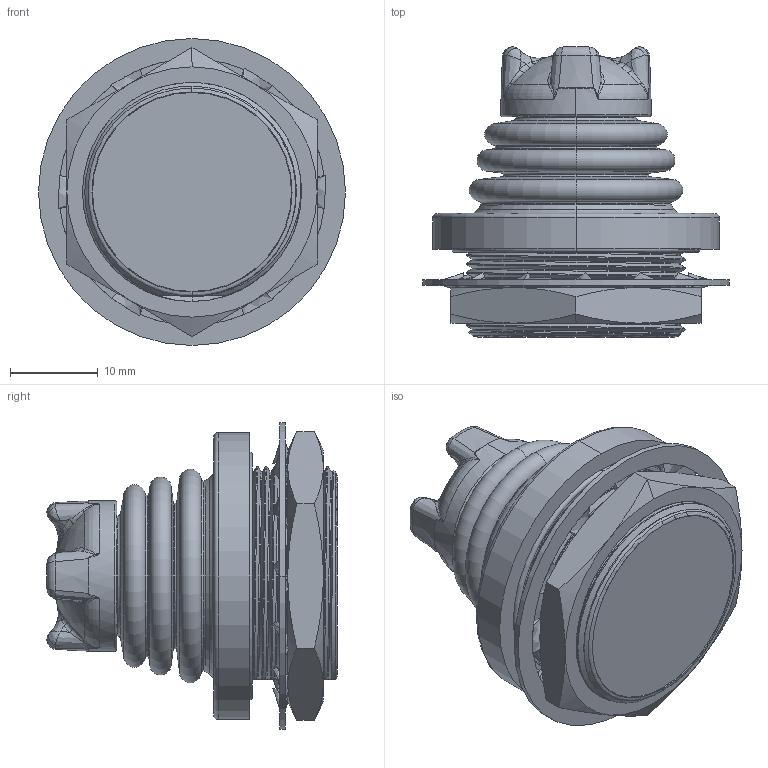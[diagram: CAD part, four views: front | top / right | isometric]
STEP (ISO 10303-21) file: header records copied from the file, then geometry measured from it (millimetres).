
FILE_DESCRIPTION (( 'STEP AP203' ), '1' );
FILE_NAME ('TS1TS00A.STEP', '2015-04-16T21:18:23', ( '' ), ( '' ), 'SwSTEP 2.0', 'SolidWorks 2015', '' );
FILE_SCHEMA (( 'CONFIG_CONTROL_DESIGN' ));
Length unit declared in the file: inch
Products named in the file (20): 910-052_HousingTSMetal_Rev_C_thread housing; A0044 - Centering Bell, Thumbstick_rev B; 500-045; 900-919_BootTSSiliconeMetalHsg_Rev_A_for thread housing; A0045_Spring Retainer, Thumbstick_revA; A0040_Gimbal, 1 Axis, Thumbstick_revA; 4-40x0.1875 SS FH (McMaster 91771A111)_91771A111; 900-265 - PIN, DWL, 0.0625x0.250in SS; A5054_SkidPlateTS-FNRXaxis_Rev_1_Detent Skid Plate; A0047 - Cap, Plug #1, Thumbstick; 900-271 - PIN, DWL, 0.0625x0.3125in SS; TS1TS00A; 900-929 Washer, Internal Tooth, SS, rev1_91113A038; castle cap-Cap; 900-918, Nut, M25x1.0, rev A; A1088- Gimbal Strap, Metal Hsg, Voltage-Out, revA; 900-917_ShaftTSSwageButton_Rev_B_default; A0043_Skid Plate, Thumbstick_revC; Part1^TS1TS00A; 900-349 - SPRING, 0.343inODx0.380inFL, SS - revA
Assembly tree (20 placements, depth 2):
  TS1TS00A
    A0043_Skid Plate, Thumbstick_revC
    900-349 - SPRING, 0.343inODx0.380inFL, SS - revA
    A0044 - Centering Bell, Thumbstick_rev B
    A0045_Spring Retainer, Thumbstick_revA
    900-265 - PIN, DWL, 0.0625x0.250in SS  x2
    900-271 - PIN, DWL, 0.0625x0.3125in SS
    castle cap-Cap
    A1088- Gimbal Strap, Metal Hsg, Voltage-Out, revA
    900-917_ShaftTSSwageButton_Rev_B_default
    Part1^TS1TS00A
    910-052_HousingTSMetal_Rev_C_thread housing
    900-919_BootTSSiliconeMetalHsg_Rev_A_for thread housing
    4-40x0.1875 SS FH (McMaster 91771A111)_91771A111
    A0047 - Cap, Plug #1, Thumbstick
    900-929 Washer, Internal Tooth, SS, rev1_91113A038
    900-918, Nut, M25x1.0, rev A
    500-045
    A0040_Gimbal, 1 Axis, Thumbstick_revA
    A5054_SkidPlateTS-FNRXaxis_Rev_1_Detent Skid Plate
Bounding box: 35.05 x 33.12 x 35.05 mm (x, y, z)
Volume: 10636.9 mm3; surface area: 18956.2 mm2
Topology: 20 solids, 20 shells, 1125 faces, 2903 edges, 1825 vertices
Faces by surface type: cylinder 343, plane 281, bspline 188, cone 188, torus 113, sphere 12
Entity records: 60898 total; most frequent: CARTESIAN_POINT 33135, ORIENTED_EDGE 5706, DIRECTION 4976, EDGE_CURVE 2853, AXIS2_PLACEMENT_3D 1995, VERTEX_POINT 1817, EDGE_LOOP 1212, ADVANCED_FACE 1121
